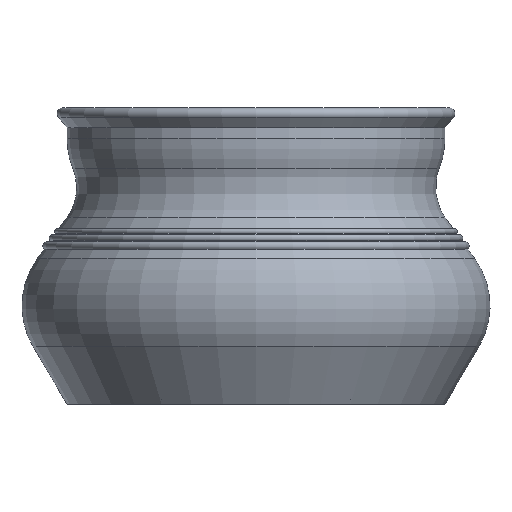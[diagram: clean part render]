
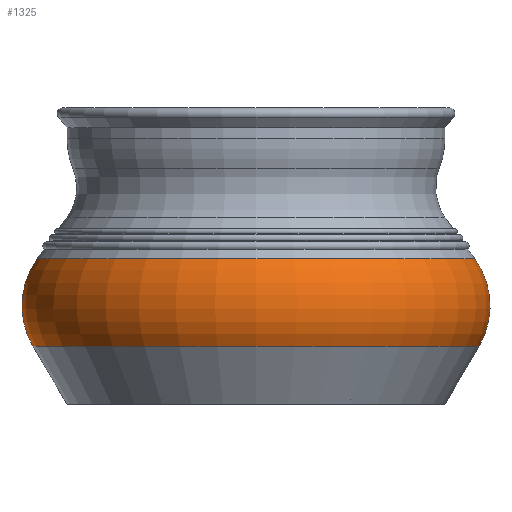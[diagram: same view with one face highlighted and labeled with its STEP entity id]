
A CAD part, front view. The second image highlights one B-rep face of the part: STEP entity #1325.
In plain terms, the highlighted toroidal (fillet/blend) face has major radius 129.833 mm and minor radius 67.527 mm.
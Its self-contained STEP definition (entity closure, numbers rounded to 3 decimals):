
#22=TOROIDAL_SURFACE('',#1505,129.833,67.527);
#166=FACE_OUTER_BOUND('',#284,.T.);
#284=EDGE_LOOP('',(#1208,#1209,#1210,#1211));
#526=CIRCLE('',#1467,188.04);
#549=CIRCLE('',#1506,184.602);
#550=CIRCLE('',#1507,67.527);
#653=VERTEX_POINT('',#2240);
#669=VERTEX_POINT('',#2303);
#818=EDGE_CURVE('',#653,#653,#526,.T.);
#849=EDGE_CURVE('',#669,#669,#549,.T.);
#850=EDGE_CURVE('',#669,#653,#550,.T.);
#1208=ORIENTED_EDGE('',*,*,#849,.F.);
#1209=ORIENTED_EDGE('',*,*,#850,.T.);
#1210=ORIENTED_EDGE('',*,*,#818,.T.);
#1211=ORIENTED_EDGE('',*,*,#850,.F.);
#1325=ADVANCED_FACE('',(#166),#22,.T.);
#1467=AXIS2_PLACEMENT_3D('',#2241,#1837,#1838);
#1505=AXIS2_PLACEMENT_3D('',#2302,#1921,#1922);
#1506=AXIS2_PLACEMENT_3D('',#2304,#1923,#1924);
#1507=AXIS2_PLACEMENT_3D('',#2305,#1925,#1926);
#1837=DIRECTION('center_axis',(0.,0.,1.));
#1838=DIRECTION('ref_axis',(1.,0.,0.));
#1921=DIRECTION('center_axis',(0.,0.,1.));
#1922=DIRECTION('ref_axis',(1.,0.,0.));
#1923=DIRECTION('center_axis',(0.,0.,1.));
#1924=DIRECTION('ref_axis',(1.,0.,0.));
#1925=DIRECTION('center_axis',(0.,-1.,0.));
#1926=DIRECTION('ref_axis',(-1.,0.,0.));
#2240=CARTESIAN_POINT('',(-188.04,0.,48.768));
#2241=CARTESIAN_POINT('Origin',(0.,0.,48.768));
#2302=CARTESIAN_POINT('Origin',(0.,0.,83.));
#2303=CARTESIAN_POINT('',(-184.602,0.,122.5));
#2304=CARTESIAN_POINT('Origin',(0.,0.,122.5));
#2305=CARTESIAN_POINT('Origin',(-129.833,0.,
83.));
